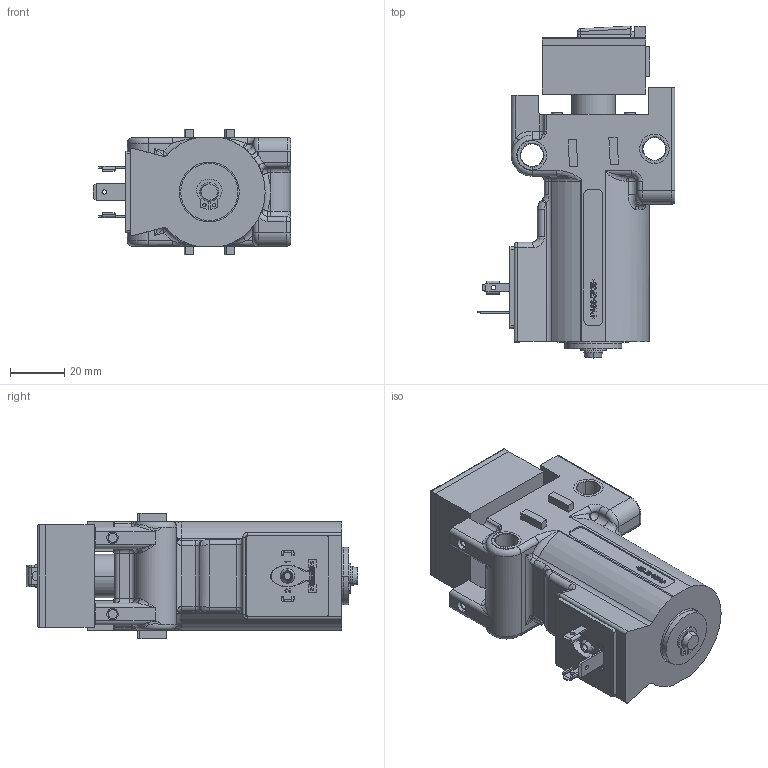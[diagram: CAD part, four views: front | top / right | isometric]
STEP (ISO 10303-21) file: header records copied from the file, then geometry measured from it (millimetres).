
FILE_DESCRIPTION((''),'2;1');
FILE_NAME('VEREINZELER_TS2PLUS_MSM_ASM','2023-03-30T13:56:43',('j.happel'),(''),'CREO PARAMETRIC BY PTC INC, 2020044','CREO PARAMETRIC BY PTC INC, 2020044','');
FILE_SCHEMA(('AUTOMOTIVE_DESIGN { 1 0 10303 214 1 1 1 1 }'));
Products named in the file (71): 100000068852_Z03_000_1_1_AF0; 100000068852_Z03_000_1_2_AF0; 100000068852_Z03_000_1_3_AF0; 100000068852_Z03_000_1_4; 100000068852_Z03_000_1_5; 100000068852_Z03_000_1_6; 100000068852_Z03_000_1_7; 100000068852_Z03_000_1_8; 100000068852_Z03_000_1_9_AF0; 100000068852_Z03_000_1_10_AF0; 100000068852_Z03_000_1_11_AF0; 100000068852_Z03_000_1_AF0_ASM; 100000060237_Z03_000_1_AF0; 100000060260_Z03_000_1_1_AF0; 100000060260_Z03_000_1_2_AF0; 100000060260_Z03_000_1_3_AF0; 100000060260_Z03_000_1_AF0_ASM; 100000060315_Z03_000_ASM_1_AF0_ASM; 100000066740_Z03_000_1_1_AF0; 100000066740_Z03_000_1_2_AF0; 100000066740_Z03_000_1_AF0_ASM; 100000060316_Z03_000_ASM_1_AF0_ASM; 100000060378_Z03_000_1_AF0; 100000058728_Z03_000_1_AF0; 100000070295_Z03_000_ASM_1_AF0_ASM; 100000060903_Z03_000_1_AF0; 100000060488_Z03_000_1; 100000060956_Z03_000_1; 100000060957_Z03_000_ASM_1_AF0_ASM; 100000060889_Z03_000_1_AF0; 100000058728_Z03_000_1_AF1; 100000070293_Z03_000_ASM_1_AF0_ASM; 100000070294_Z03_000_ASM_1_AF0_ASM; 100000036703_Z03_000_1_AF0; 100000036703_Z03_000_1_AF1; 100000068769_Z03_000_2_AF0; 100000068853_Z03_000_ASM_1_AF0_ASM; 100000072605_Z03_000_1_AF0; 100000072604_Z03_000_1_AF0; 100000069715_Z03_000_1_AF0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
Assembly tree (70 placements, depth 10):
  VEREINZELER_TS2PLUS_MSM_ASM
    100000072606_Z03_000_ASM_2_AF0_ASM
      100000068853_Z03_000_ASM_1_AF0_ASM
        100000068852_Z03_000_1_AF0_ASM
          100000068852_Z03_000_1_1_AF0
          100000068852_Z03_000_1_2_AF0
          100000068852_Z03_000_1_3_AF0
          100000068852_Z03_000_1_4
          100000068852_Z03_000_1_5
          100000068852_Z03_000_1_6
          100000068852_Z03_000_1_7
          100000068852_Z03_000_1_8
          100000068852_Z03_000_1_9_AF0
          100000068852_Z03_000_1_10_AF0
          100000068852_Z03_000_1_11_AF0
        100000070294_Z03_000_ASM_1_AF0_ASM
          100000070293_Z03_000_ASM_1_AF0_ASM
            100000070295_Z03_000_ASM_1_AF0_ASM
              100000060316_Z03_000_ASM_1_AF0_ASM
                100000060315_Z03_000_ASM_1_AF0_ASM
                  100000060237_Z03_000_1_AF0
                  100000060260_Z03_000_1_AF0_ASM
                100000066740_Z03_000_1_AF0_ASM
                  100000066740_Z03_000_1_1_AF0
                  100000066740_Z03_000_1_2_AF0
              100000060378_Z03_000_1_AF0
              100000058728_Z03_000_1_AF0
            100000060957_Z03_000_ASM_1_AF0_ASM
              100000060903_Z03_000_1_AF0
              100000060488_Z03_000_1
              100000060956_Z03_000_1
            100000060889_Z03_000_1_AF0
            100000058728_Z03_000_1_AF1
        100000036703_Z03_000_1_AF0
        100000036703_Z03_000_1_AF1
        100000068769_Z03_000_2_AF0
      100000072605_Z03_000_1_AF0
      100000072604_Z03_000_1_AF0
      100000069715_Z03_000_1_AF0
      100000069715_Z03_000_1_AF1
      100000069715_Z03_000_1_AF2
      100000069715_Z03_000_1_AF3
      100000069506_Z03_000_ASM_1_AF0_ASM
        100000068902_Z03_000_1_AF0
      100000072614_Z03_000_1
      100000068752_Z03_000_1
      100000068754_Z03_000_1_AF0
      100000072640_Z03_000_1_AF0
    BGR_DAEMPFER_AF0_ASM
      GRUNDPLATTE_DAUERLAUF_AF0
      STICKAUFNAHME_20MM_AF0
      DECKEL_IGUS_DAUERLAUF_AF0
      ANSCHLAG_AF0
      MSM-STICK_3X5X20_AF0
      PM_20X10X2_AF0
      PM_20X10X2_AF1
      PM_20X10X2_AF2
      PM_20X10X2_AF3
      PM_20X10X2_AF4
      PM_20X10X2_AF5
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Bounding box: 72.49 x 121.95 x 46 mm (x, y, z)
Volume: 68176.1 mm3; surface area: 65114.5 mm2
Topology: 48 solids, 48 shells, 3647 faces, 9991 edges, 6518 vertices
Faces by surface type: plane 2590, cylinder 608, bspline 234, torus 95, cone 69, sphere 45, extrusion 6
Entity records: 161033 total; most frequent: CARTESIAN_POINT 39269, ORIENTED_EDGE 19900, DIRECTION 17743, EDGE_CURVE 9950, VECTOR 7765, LINE 7759, PRESENTATION_STYLE_ASSIGNMENT 7465, STYLED_ITEM 7405
